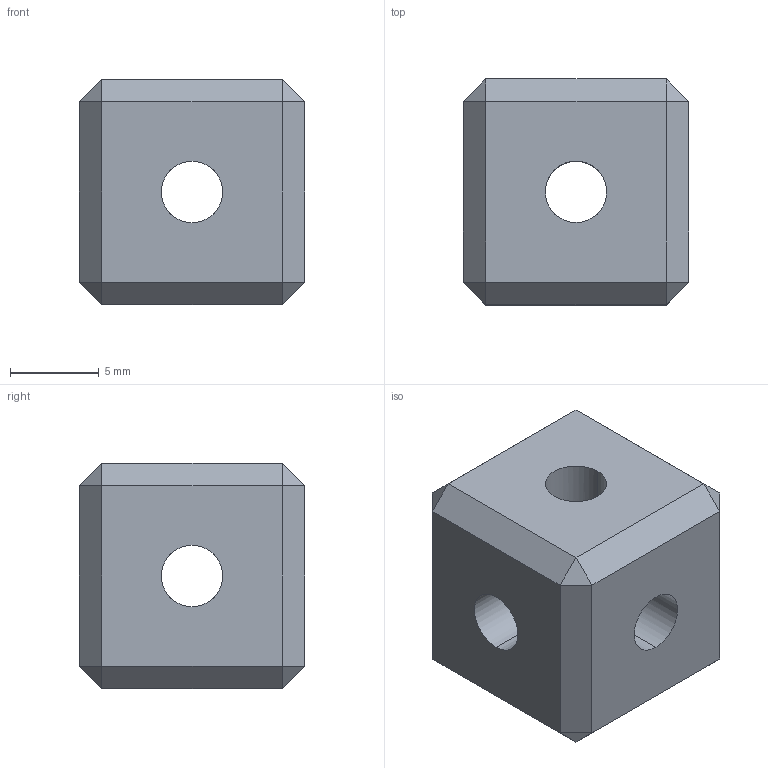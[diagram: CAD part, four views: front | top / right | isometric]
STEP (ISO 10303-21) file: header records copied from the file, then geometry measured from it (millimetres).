
FILE_DESCRIPTION (( 'STEP AP203' ), '1' );
FILE_NAME ('FDPCK-.5PULTRUDED-CUBE.step', '2019-09-11T18:23:24', ( 'ydmin' ), ( '' ), 'SwSTEP 2.0', 'SolidWorks 2017', '' );
FILE_SCHEMA (( 'CONFIG_CONTROL_DESIGN' ));
Length unit declared in the file: inch
Products named in the file (1): FDPCK-.5PULTRUDED-CUBE
Bounding box: 12.7 x 12.7 x 12.7 mm (x, y, z)
Volume: 1637.6 mm3; surface area: 1105.5 mm2
Topology: 1 solids, 1 shells, 38 faces, 92 edges, 52 vertices
Faces by surface type: plane 26, cylinder 12
Entity records: 1163 total; most frequent: CARTESIAN_POINT 243, ORIENTED_EDGE 184, DIRECTION 162, EDGE_CURVE 92, LINE 60, VECTOR 60, VERTEX_POINT 52, AXIS2_PLACEMENT_3D 51
